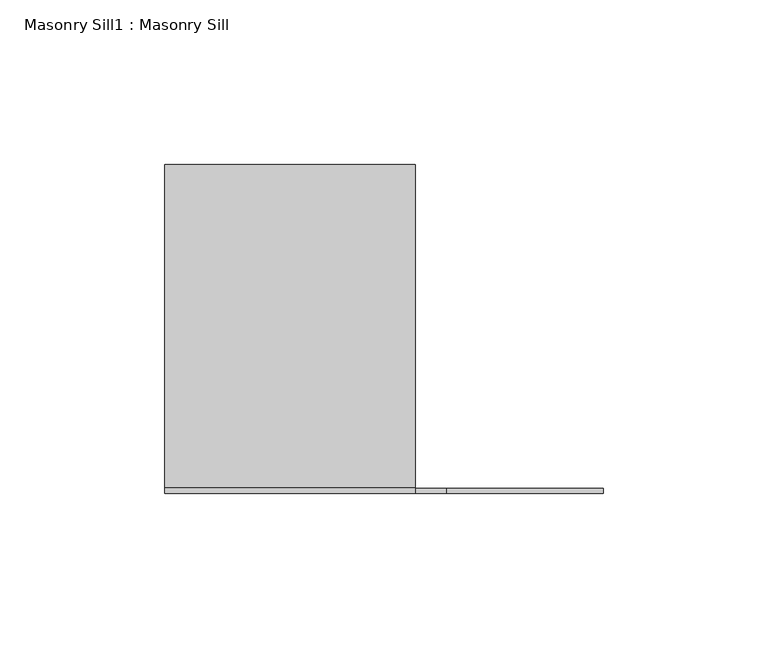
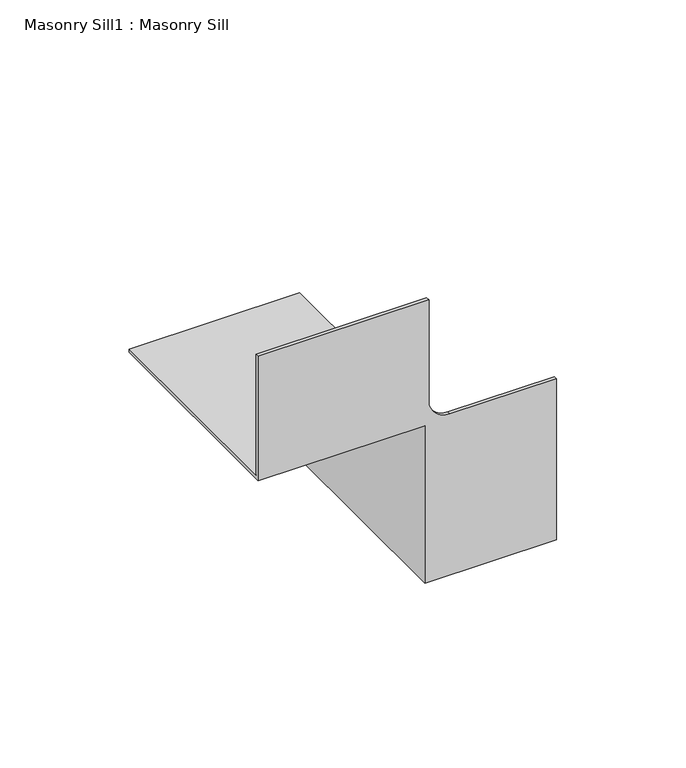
"""IFC4 building model written with IfcOpenShell, lengths in millimetres: proxy geometry, Masonry Sill1 : Masonry Sill."""

from ifc_helpers import new_model, si_unit, frame, origin, place, context, project, spatial, polyline, circle_curve, source, transform, mapped, element, save
from ifc_brep_helpers import plane_surface, revolved_surface, advanced_brep


def masonry_sill1_masonry_sill_6295a482(model_context):
    return source(origin(), model_context, "Body", "AdvancedBrep", [
        advanced_brep(
        [(26781.2726773, 729.2316297, 304.8), (26857.4726773, 729.2316297, 304.8), (26857.4726773, 729.2316297, 228.6), (26855.8851773, 729.2316297, 228.6), (26855.8851773, 729.2316297, 303.2125), (26781.2726773, 729.2316297, 303.2125), (26781.2726773, 630.8066297, 304.8), (26857.4726773, 630.8066297, 304.8), (26857.4726773, 630.8066297, 228.6), (26914.6226773, 630.8066297, 228.6), (26914.6226773, 629.2191297, 228.6), (26855.8851773, 629.2191297, 228.6), (26855.8851773, 629.2191297, 303.2125), (26781.2726773, 629.2191297, 303.2125), (26781.2726773, 629.2191297, 361.95), (26781.2726773, 630.8066297, 361.95), (26914.6226773, 629.2191297, 304.8), (26866.9976773, 629.2191297, 304.8), (26857.4726773, 629.2191297, 314.325), (26857.4726773, 629.2191297, 361.95), (26857.4726773, 630.8066297, 361.95), (26857.4726773, 630.8066297, 314.325), (26866.9976773, 630.8066297, 304.8), (26914.6226773, 630.8066297, 304.8)],
        [
            (0, 1),
            (1, 2),
            (2, 3),
            (3, 4),
            (4, 5),
            (5, 0),
            (0, 6),
            (6, 7),
            (7, 1),
            (7, 8),
            (8, 2),
            (8, 9),
            (9, 10),
            (10, 11),
            (11, 3),
            (11, 12),
            (12, 4),
            (12, 13),
            (13, 5),
            (13, 14),
            (14, 15),
            (15, 6),
            (10, 16),
            (16, 17),
            (17, 18, circle_curve(frame((26866.9976773, 629.2191297, 314.325), z_axis=(0.0, 1.0, 0.0), x_axis=(1.0, 0.0, 0.0)), 9.525)),
            (18, 19),
            (19, 14),
            (15, 20),
            (20, 21),
            (21, 22, circle_curve(frame((26866.9976773, 630.8066297, 314.325), z_axis=(0.0, -1.0, 0.0), x_axis=(1.0, 0.0, 0.0)), 9.525)),
            (22, 23),
            (23, 9),
            (23, 16),
            (22, 17),
            (21, 18),
            (20, 19),
        ],
        [
            plane_surface(frame((26857.4726773, 729.2316297, 304.8), z_axis=(0.0, 1.0, 0.0), x_axis=(1.0, 0.0, 0.0))),
            plane_surface(frame((26781.2726773, 729.2316297, 304.8), z_axis=(0.0, 0.0, 1.0), x_axis=(0.0, -1.0, 0.0))),
            plane_surface(frame((26857.4726773, 729.2316297, 304.8), z_axis=(1.0, 0.0, 0.0), x_axis=(0.0, -1.0, 0.0))),
            plane_surface(frame((26857.4726773, 729.2316297, 228.6), z_axis=(0.0, 0.0, -1.0), x_axis=(0.0, -1.0, 0.0))),
            plane_surface(frame((26855.8851773, 729.2316297, 228.6), z_axis=(-1.0, 0.0, 0.0), x_axis=(0.0, -1.0, 0.0))),
            plane_surface(frame((26855.8851773, 729.2316297, 303.2125), z_axis=(0.0, 0.0, -1.0), x_axis=(0.0, -1.0, 0.0))),
            plane_surface(frame((26781.2726773, 729.2316297, 303.2125), z_axis=(-1.0, 0.0, 0.0), x_axis=(0.0, -1.0, 0.0))),
            plane_surface(frame((26781.2726773, 629.2191297, 303.2125), z_axis=(0.0, -1.0, 0.0), x_axis=(0.0, 0.0, -1.0))),
            plane_surface(frame((26781.2726773, 630.8066297, 303.2125), z_axis=(0.0, 1.0, 0.0), x_axis=(0.0, 0.0, 1.0))),
            plane_surface(frame((26914.6226773, 629.2191297, 228.6), z_axis=(1.0, 0.0, 0.0), x_axis=(0.0, 1.0, 0.0))),
            plane_surface(frame((26914.6226773, 629.2191297, 304.8), z_axis=(0.0, 0.0, 1.0), x_axis=(0.0, 1.0, 0.0))),
            revolved_surface(polyline([(26876.522677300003, 630.8066297, 314.325), (26876.522677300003, 629.2191297, 314.325)]), (26866.9976773, 630.8066297, 314.325), (0.0, 1.0, 0.0)),
            plane_surface(frame((26857.4726773, 629.2191297, 314.325), z_axis=(1.0, 0.0, 0.0), x_axis=(0.0, 1.0, 0.0))),
            plane_surface(frame((26857.4726773, 629.2191297, 361.95), z_axis=(0.0, 0.0, 1.0), x_axis=(0.0, 1.0, 0.0))),
        ],
        [
            (0, [[1, 2, 3, 4, 5, 6]]),
            (1, [[-1, 7, 8, 9]]),
            (2, [[-2, -9, 10, 11]]),
            (3, [[-3, -11, 12, 13, 14, 15]]),
            (4, [[-4, -15, 16, 17]]),
            (5, [[-5, -17, 18, 19]]),
            (6, [[-6, -19, 20, 21, 22, -7]]),
            (7, [[-20, -18, -16, -14, 23, 24, 25, 26, 27]]),
            (8, [[28, 29, 30, 31, 32, -12, -10, -8, -22]]),
            (9, [[-23, -13, -32, 33]]),
            (10, [[-24, -33, -31, 34]]),
            (11, [[-25, -34, -30, 35]]),
            (12, [[-26, -35, -29, 36]]),
            (13, [[-27, -36, -28, -21]]),
        ],
    ),
    ])


if __name__ == "__main__":
    model = new_model("IFC4")
    model_context = context("Model", 3, world=origin())
    ifc_project = project(units=[si_unit("LENGTHUNIT", "METRE", prefix="MILLI")], contexts=[model_context])
    site = spatial("IfcSite", under=ifc_project)
    building = spatial("IfcBuilding", under=site)
    placement = place(None, origin())
    masonry_sill1_masonry_sill_shape = masonry_sill1_masonry_sill_6295a482(model_context)
    element("IfcBuildingElementProxy", 1, Name="Masonry Sill1 : Masonry Sill", ObjectType="Masonry Sill1 : Masonry Sill", at=placement, inside=building, context=model_context, shape_type="MappedRepresentation", body=[
        mapped(masonry_sill1_masonry_sill_shape, transform((0.0, 0.0, 0.0), x_axis=(1.0, 0.0, 0.0), y_axis=(0.0, 1.0, 0.0), z_axis=(0.0, 0.0, 1.0))),
    ])
    save(model, "model.ifc")
